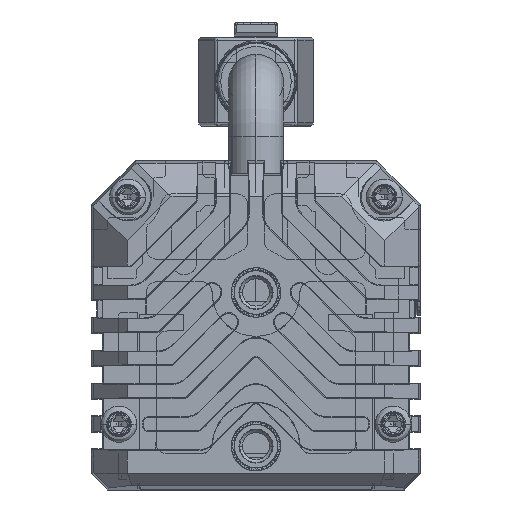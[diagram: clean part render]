
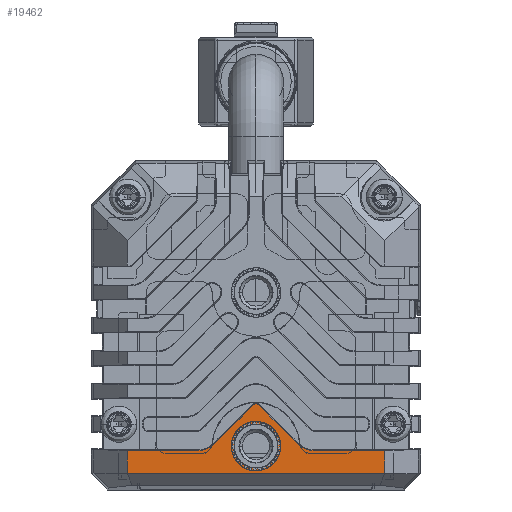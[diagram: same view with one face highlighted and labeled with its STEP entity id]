
A CAD part, left-side view. The second image highlights one B-rep face of the part: STEP entity #19462.
In plain terms, the highlighted planar face has unit normal (-1, 0, 0) as drawn and (1, 0, 0) by its records, which use the part's own axes.
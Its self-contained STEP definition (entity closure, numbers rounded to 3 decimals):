
#12370=CARTESIAN_POINT('',(5.,0.,7.527));
#12371=DIRECTION('',(1.,0.,0.));
#12372=DIRECTION('',(0.,0.707,0.707));
#12373=AXIS2_PLACEMENT_3D('',#12370,#12371,#12372);
#12379=DIRECTION('',(0.,0.707,-0.707));
#12380=VECTOR('',#12379,5.013);
#12381=CARTESIAN_POINT('',(5.,0.242,7.769));
#12382=LINE('',#12381,#12380);
#12386=DIRECTION('',(0.,-1.,0.));
#12387=VECTOR('',#12386,6.438);
#12388=CARTESIAN_POINT('',(5.,11.75,3.593));
#12389=LINE('',#12388,#12387);
#12393=DIRECTION('',(0.,0.,1.));
#12394=VECTOR('',#12393,2.093);
#12395=CARTESIAN_POINT('',(5.,11.75,1.5));
#12396=LINE('',#12395,#12394);
#12400=DIRECTION('',(0.,1.,0.));
#12401=VECTOR('',#12400,23.5);
#12402=CARTESIAN_POINT('',(5.,-11.75,1.5));
#12403=LINE('',#12402,#12401);
#12407=DIRECTION('',(0.,0.,-1.));
#12408=VECTOR('',#12407,2.093);
#12409=CARTESIAN_POINT('',(5.,-11.75,3.593));
#12410=LINE('',#12409,#12408);
#12414=DIRECTION('',(0.,1.,0.));
#12415=VECTOR('',#12414,6.438);
#12416=CARTESIAN_POINT('',(5.,-11.75,3.593));
#12417=LINE('',#12416,#12415);
#12421=DIRECTION('',(0.,0.707,0.707));
#12422=VECTOR('',#12421,5.013);
#12423=CARTESIAN_POINT('',(5.,-3.787,4.225));
#12424=LINE('',#12423,#12422);
#12428=CARTESIAN_POINT('',(5.,0.,4.));
#12429=DIRECTION('',(1.,0.,0.));
#12430=DIRECTION('',(0.,1.,0.));
#12431=AXIS2_PLACEMENT_3D('',#12428,#12429,#12430);
#12436=CARTESIAN_POINT('',(5.,0.,4.));
#12437=DIRECTION('',(1.,0.,0.));
#12438=DIRECTION('',(0.,-1.,0.));
#12439=AXIS2_PLACEMENT_3D('',#12436,#12437,#12438);
#13165=CARTESIAN_POINT('',(5.,-5.312,5.75));
#13166=DIRECTION('',(-1.,0.,0.));
#13167=DIRECTION('',(0.,0.707,-0.707));
#13168=AXIS2_PLACEMENT_3D('',#13165,#13166,#13167);
#16684=CARTESIAN_POINT('',(5.,5.312,5.75));
#16685=DIRECTION('',(-1.,0.,0.));
#16686=DIRECTION('',(0.,0.,-1.));
#16687=AXIS2_PLACEMENT_3D('',#16684,#16685,#16686);
#18357=CARTESIAN_POINT('',(5.,2.,4.));
#18358=CARTESIAN_POINT('',(5.,-2.,4.));
#18359=VERTEX_POINT('',#18357);
#18360=VERTEX_POINT('',#18358);
#18361=CARTESIAN_POINT('',(5.,-11.75,1.5));
#18362=CARTESIAN_POINT('',(5.,11.75,1.5));
#18363=VERTEX_POINT('',#18361);
#18364=VERTEX_POINT('',#18362);
#18463=CARTESIAN_POINT('',(5.,5.312,3.593));
#18464=VERTEX_POINT('',#18463);
#18465=CARTESIAN_POINT('',(5.,3.787,4.225));
#18466=VERTEX_POINT('',#18465);
#18471=CARTESIAN_POINT('',(5.,-3.787,4.225));
#18472=VERTEX_POINT('',#18471);
#18473=CARTESIAN_POINT('',(5.,-5.312,3.593));
#18474=VERTEX_POINT('',#18473);
#18551=CARTESIAN_POINT('',(5.,-11.75,3.593));
#18552=VERTEX_POINT('',#18551);
#18553=CARTESIAN_POINT('',(5.,11.75,3.593));
#18554=VERTEX_POINT('',#18553);
#18571=CARTESIAN_POINT('',(5.,0.242,7.769));
#18572=CARTESIAN_POINT('',(5.,-0.242,7.769));
#18573=VERTEX_POINT('',#18571);
#18574=VERTEX_POINT('',#18572);
#19429=CARTESIAN_POINT('',(5.,0.,0.));
#19430=DIRECTION('',(1.,0.,0.));
#19431=DIRECTION('',(0.,1.,0.));
#19432=AXIS2_PLACEMENT_3D('',#19429,#19430,#19431);
#19433=PLANE('',#19432);
#19435=ORIENTED_EDGE('',*,*,#19434,.F.);
#19437=ORIENTED_EDGE('',*,*,#19436,.T.);
#19439=ORIENTED_EDGE('',*,*,#19438,.F.);
#19441=ORIENTED_EDGE('',*,*,#19440,.F.);
#19443=ORIENTED_EDGE('',*,*,#19442,.F.);
#19445=ORIENTED_EDGE('',*,*,#19444,.F.);
#19447=ORIENTED_EDGE('',*,*,#19446,.F.);
#19449=ORIENTED_EDGE('',*,*,#19448,.T.);
#19451=ORIENTED_EDGE('',*,*,#19450,.F.);
#19453=ORIENTED_EDGE('',*,*,#19452,.T.);
#19454=EDGE_LOOP('',(#19435,#19437,#19439,#19441,#19443,#19445,#19447,#19449,
#19451,#19453));
#19455=FACE_OUTER_BOUND('',#19454,.F.);
#19457=ORIENTED_EDGE('',*,*,#19456,.T.);
#19459=ORIENTED_EDGE('',*,*,#19458,.T.);
#19460=EDGE_LOOP('',(#19457,#19459));
#19461=FACE_BOUND('',#19460,.F.);
#12374=CIRCLE('',#12373,0.343);
#12432=CIRCLE('',#12431,2.);
#12440=CIRCLE('',#12439,2.);
#13169=CIRCLE('',#13168,2.157);
#16688=CIRCLE('',#16687,2.157);
#19434=EDGE_CURVE('',#18573,#18574,#12374,.T.);
#19436=EDGE_CURVE('',#18573,#18466,#12382,.T.);
#19438=EDGE_CURVE('',#18464,#18466,#16688,.T.);
#19440=EDGE_CURVE('',#18554,#18464,#12389,.T.);
#19442=EDGE_CURVE('',#18364,#18554,#12396,.T.);
#19444=EDGE_CURVE('',#18363,#18364,#12403,.T.);
#19446=EDGE_CURVE('',#18552,#18363,#12410,.T.);
#19448=EDGE_CURVE('',#18552,#18474,#12417,.T.);
#19450=EDGE_CURVE('',#18472,#18474,#13169,.T.);
#19452=EDGE_CURVE('',#18472,#18574,#12424,.T.);
#19456=EDGE_CURVE('',#18359,#18360,#12432,.T.);
#19458=EDGE_CURVE('',#18360,#18359,#12440,.T.);
#19462=ADVANCED_FACE('',(#19455,#19461),#19433,.T.);
